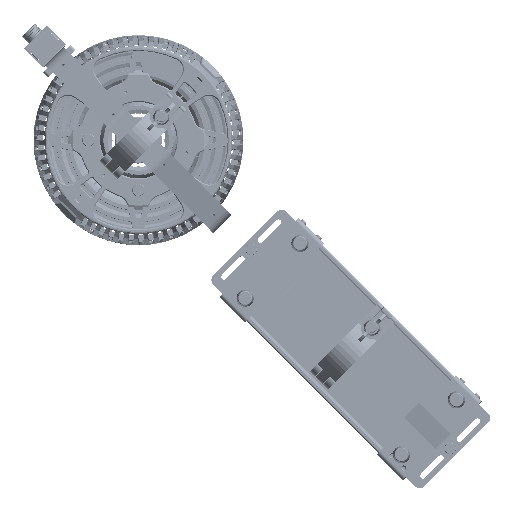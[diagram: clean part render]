
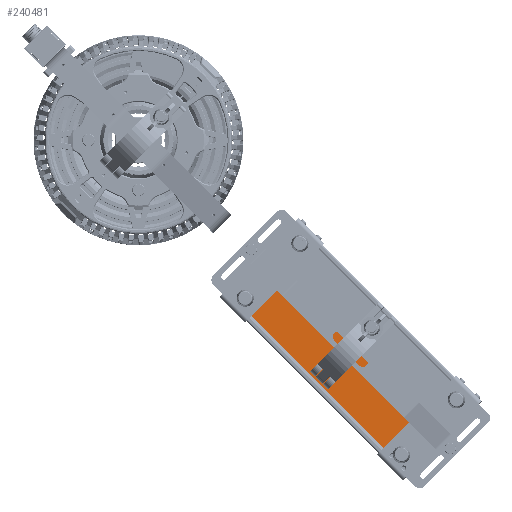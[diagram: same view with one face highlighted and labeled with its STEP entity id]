
A CAD part, top view. The second image highlights one B-rep face of the part: STEP entity #240481.
In plain terms, the highlighted planar face has unit normal (0, 0, 1) as drawn and (0, 0, -1) by its records, which use the part's own axes.
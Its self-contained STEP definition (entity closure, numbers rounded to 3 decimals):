
#3370 = CARTESIAN_POINT ( 'NONE',  ( 3.5, -119.836, -20.9 ) ) ;
#12485 = VECTOR ( 'NONE', #186732, 1000. ) ;
#13162 = EDGE_CURVE ( 'NONE', #271716, #249593, #248839, .T. ) ;
#48442 = CARTESIAN_POINT ( 'NONE',  ( -57.5, 117.6, -20.9 ) ) ;
#54909 = LINE ( 'NONE', #246623, #12485 ) ;
#65673 = PLANE ( 'NONE',  #281895 ) ;
#75865 = LINE ( 'NONE', #199697, #111198 ) ;
#102237 = DIRECTION ( 'NONE',  ( 0., 1., 0. ) ) ;
#111198 = VECTOR ( 'NONE', #166720, 1000. ) ;
#113439 = CARTESIAN_POINT ( 'NONE',  ( -54.5, -117.6, -20.9 ) ) ;
#114348 = DIRECTION ( 'NONE',  ( 0., 0., 1. ) ) ;
#117255 = ORIENTED_EDGE ( 'NONE', *, *, #179974, .F. ) ;
#124662 = CARTESIAN_POINT ( 'NONE',  ( -54.5, 117.6, -20.9 ) ) ;
#128652 = LINE ( 'NONE', #124662, #247968 ) ;
#130607 = VERTEX_POINT ( 'NONE', #192819 ) ;
#145328 = DIRECTION ( 'NONE',  ( 1., 0., 0. ) ) ;
#166720 = DIRECTION ( 'NONE',  ( -1., 0., 0. ) ) ;
#179974 = EDGE_CURVE ( 'NONE', #249593, #130607, #75865, .T. ) ;
#186732 = DIRECTION ( 'NONE',  ( -1., 0., 0. ) ) ;
#189419 = FACE_OUTER_BOUND ( 'NONE', #254729, .T. ) ;
#191444 = ORIENTED_EDGE ( 'NONE', *, *, #331200, .T. ) ;
#192299 = VERTEX_POINT ( 'NONE', #113439 ) ;
#192819 = CARTESIAN_POINT ( 'NONE',  ( -54.5, 117.6, -20.9 ) ) ;
#199697 = CARTESIAN_POINT ( 'NONE',  ( -57.5, 117.6, -20.9 ) ) ;
#204304 = CARTESIAN_POINT ( 'NONE',  ( 3.5, 117.6, -20.9 ) ) ;
#214466 = ORIENTED_EDGE ( 'NONE', *, *, #13162, .F. ) ;
#223552 = DIRECTION ( 'NONE',  ( 0., 1., 0. ) ) ;
#240481 = ADVANCED_FACE ( 'NONE', ( #189419 ), #65673, .F. ) ;
#246623 = CARTESIAN_POINT ( 'NONE',  ( -57.5, -117.6, -20.9 ) ) ;
#247968 = VECTOR ( 'NONE', #223552, 1000. ) ;
#248839 = LINE ( 'NONE', #3370, #276875 ) ;
#249593 = VERTEX_POINT ( 'NONE', #204304 ) ;
#254729 = EDGE_LOOP ( 'NONE', ( #300146, #191444, #117255, #214466 ) ) ;
#257406 = CARTESIAN_POINT ( 'NONE',  ( 3.5, -117.6, -20.9 ) ) ;
#271716 = VERTEX_POINT ( 'NONE', #257406 ) ;
#276875 = VECTOR ( 'NONE', #102237, 1000. ) ;
#281895 = AXIS2_PLACEMENT_3D ( 'NONE', #48442, #114348, #145328 ) ;
#300146 = ORIENTED_EDGE ( 'NONE', *, *, #398649, .T. ) ;
#331200 = EDGE_CURVE ( 'NONE', #192299, #130607, #128652, .T. ) ;
#398649 = EDGE_CURVE ( 'NONE', #271716, #192299, #54909, .T. ) ;
